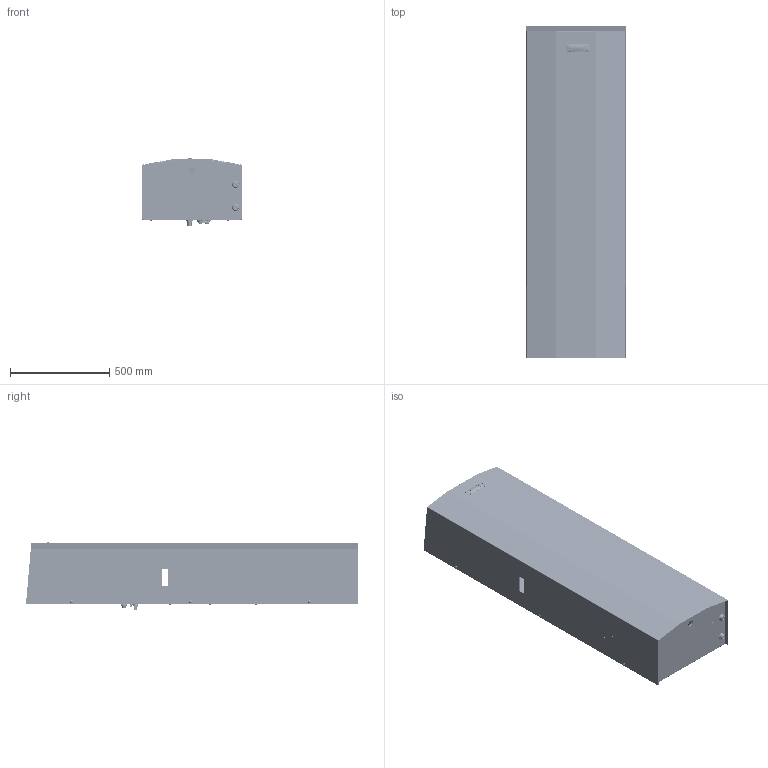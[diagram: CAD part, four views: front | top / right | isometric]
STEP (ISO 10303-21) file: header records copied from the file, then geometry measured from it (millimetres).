
FILE_DESCRIPTION (( 'STEP AP214' ), '1' );
FILE_NAME ('PWS 31002.STEP', '2019-02-11T21:29:02', ( '' ), ( '' ), 'SwSTEP 2.0', 'SolidWorks 2017', '' );
FILE_SCHEMA (( 'AUTOMOTIVE_DESIGN' ));
Length unit declared in the file: millimetre
Products named in the file (51): 020100895; 80030-098_815073132; US-820102000_820102000; 015074029_31002 front; 085000066; 885000041_885000041; 015074029_31002; 085000065; 885000053_885000053; 830300002_830300002; 811000021_811000021; 885000062; 825416025_825416025; 020140018_020140018; 885000043_885000043; 830300015_830300015; 085110010_085110010; 020200600_020200600 Harness; 885000051_885000051; 820140002_KB-SS Rivet 1-8";Dome;MultiGrp; pan head cross recess screw_din_020100870; 885000050_885000050; 885000069_885000069; 825510001_825510001; 020220100; 80000-012_885000177; 020140030_020140030; 825500025_825500025; 015080031; 020140042_020140042; 850380089_850380089; 820100030_820100030; 80030-095_815073129; 80063-010_802000201; 885000105_885000105; 80030-036_802004100; 020500682_020500682; 80030-041_802002103; 80030-040_802005072; 811000012_811000012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
Assembly tree (130 placements, depth 2):
  PWS 31002
    80030-036_802004100
    80030-095_815073129
    020140042_020140042  x17
    020140030_020140030  x6
    825510001_825510001
    820140002_KB-SS Rivet 1-8";Dome;MultiGrp
    085110010_085110010
    020140018_020140018  x23
    811000021_811000021
    085000065
    085000066
    80030-098_815073132
    80030-039_802005071
    80030-096_815073130
    020140240_KB-Rivet 3-16";Lg Flg;MultGrip-short   x6
    850380034  x2
    80030-040_802005072
    020500682_020500682
    80063-010_802000201
    850380089_850380089  x3
    825500025_825500025
    020220100  x4
    pan head cross recess screw_din_020100870  x4
    020200600_020200600 Harness
    885000043_885000043  x2
    885000062
    885000053_885000053
    885000041_885000041  x2
    US-820102000_820102000  x4
    030600204-1  Thermostat Jumo-Körper_Standard
    80063-001
    825500030_825500030
    020200370  x2
    811000012_811000012
    80030-041_802002103
    885000105_885000105
    820100030_820100030  x6
    015080031
    80000-012_885000177  x2
    885000069_885000069  x2
    885000050_885000050  x2
    885000051_885000051  x2
    830300015_830300015  x2
    825416025_825416025
    830300002_830300002  x2
    015074029_31002
    015074029_31002 front
    020100895  x4
    80067-051
    US-820300007_90576A103  x4
Bounding box: 506.82 x 1674.22 x 338.06 mm (x, y, z)
Volume: 9953074.4 mm3; surface area: 9049108.7 mm2
Topology: 154 solids, 155 shells, 9365 faces, 23216 edges, 14446 vertices
Faces by surface type: plane 3738, cylinder 2366, bspline 1425, cone 1093, torus 483, sphere 260
Entity records: 316864 total; most frequent: CARTESIAN_POINT 166179, ORIENTED_EDGE 28082, DIRECTION 23943, EDGE_CURVE 14041, VERTEX_POINT 8946, AXIS2_PLACEMENT_3D 8019, VECTOR 7905, LINE 7905
